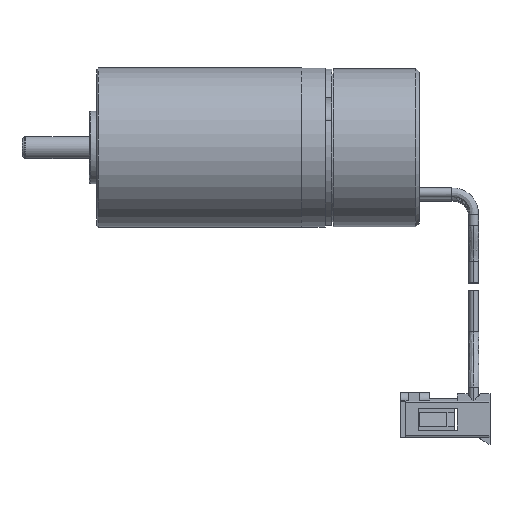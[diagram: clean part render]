
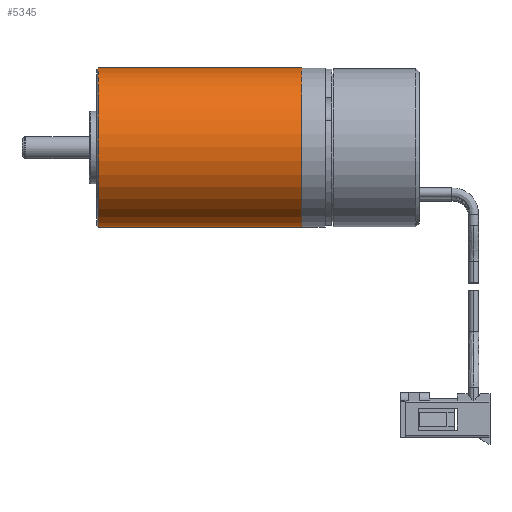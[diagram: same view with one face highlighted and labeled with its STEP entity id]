
A CAD part, top view. The second image highlights one B-rep face of the part: STEP entity #5345.
In plain terms, the highlighted cylindrical face has radius 11 mm (diameter 22 mm), a partial arc.
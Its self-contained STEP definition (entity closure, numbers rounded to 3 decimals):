
#1501=CARTESIAN_POINT('',(0.2,0.,0.));
#1502=DIRECTION('',(-1.,0.,0.));
#1503=DIRECTION('',(0.,-1.,0.));
#1504=AXIS2_PLACEMENT_3D('',#1501,#1502,#1503);
#1509=DIRECTION('',(-1.,0.,0.));
#1510=VECTOR('',#1509,28.1);
#1511=CARTESIAN_POINT('',(28.3,11.,0.));
#1512=LINE('',#1511,#1510);
#1516=CARTESIAN_POINT('',(28.3,0.,0.));
#1517=DIRECTION('',(1.,0.,0.));
#1518=DIRECTION('',(0.,1.,0.));
#1519=AXIS2_PLACEMENT_3D('',#1516,#1517,#1518);
#1524=DIRECTION('',(-1.,0.,0.));
#1525=VECTOR('',#1524,28.1);
#1526=CARTESIAN_POINT('',(28.3,-11.,0.));
#1527=LINE('',#1526,#1525);
#3395=CARTESIAN_POINT('',(28.3,11.,0.));
#3396=CARTESIAN_POINT('',(28.3,-11.,0.));
#3397=VERTEX_POINT('',#3395);
#3398=VERTEX_POINT('',#3396);
#3433=CARTESIAN_POINT('',(0.2,-11.,0.));
#3434=CARTESIAN_POINT('',(0.2,11.,0.));
#3435=VERTEX_POINT('',#3433);
#3436=VERTEX_POINT('',#3434);
#5331=CARTESIAN_POINT('',(32.865,0.,0.));
#5332=DIRECTION('',(-1.,0.,0.));
#5333=DIRECTION('',(0.,1.,0.));
#5334=AXIS2_PLACEMENT_3D('',#5331,#5332,#5333);
#5335=CYLINDRICAL_SURFACE('',#5334,11.);
#5337=ORIENTED_EDGE('',*,*,#5336,.T.);
#5339=ORIENTED_EDGE('',*,*,#5338,.F.);
#5340=ORIENTED_EDGE('',*,*,#5313,.T.);
#5342=ORIENTED_EDGE('',*,*,#5341,.T.);
#5343=EDGE_LOOP('',(#5337,#5339,#5340,#5342));
#5344=FACE_OUTER_BOUND('',#5343,.F.);
#5345=ADVANCED_FACE('',(#5344),#5335,.T.);
#1505=CIRCLE('',#1504,11.);
#1520=CIRCLE('',#1519,11.);
#5313=EDGE_CURVE('',#3397,#3398,#1520,.T.);
#5336=EDGE_CURVE('',#3435,#3436,#1505,.T.);
#5338=EDGE_CURVE('',#3397,#3436,#1512,.T.);
#5341=EDGE_CURVE('',#3398,#3435,#1527,.T.);
